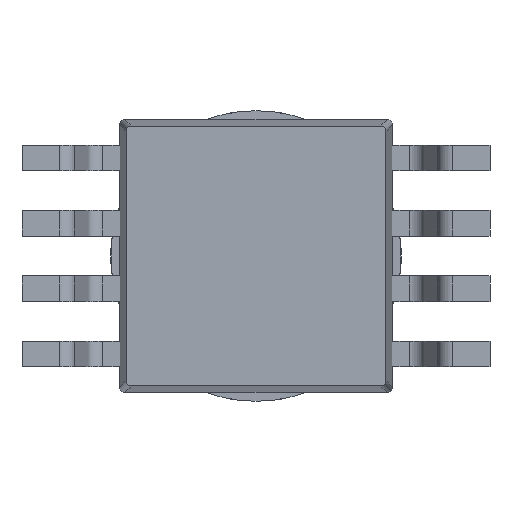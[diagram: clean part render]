
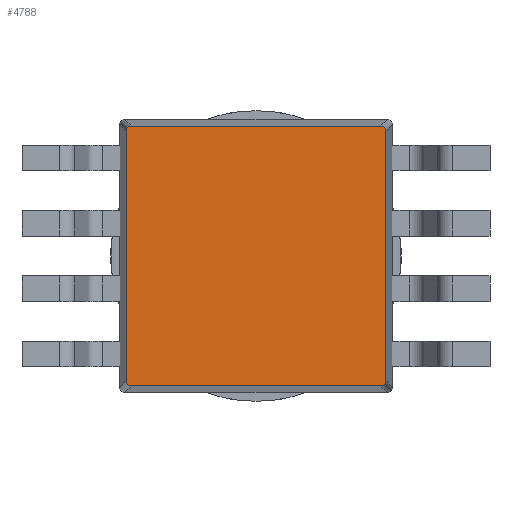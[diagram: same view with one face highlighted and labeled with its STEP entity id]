
A CAD part, front view. The second image highlights one B-rep face of the part: STEP entity #4788.
In plain terms, the highlighted planar face has unit normal (0, -1, 0).
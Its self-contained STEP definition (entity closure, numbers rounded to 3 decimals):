
#265 = LINE ( 'NONE', #266, #4687 ) ;
#266 = CARTESIAN_POINT ( 'NONE',  ( -5.055, -3.5, 5.3 ) ) ;
#267 = DIRECTION ( 'NONE',  ( 0., 0., 1. ) ) ;
#488 = LINE ( 'NONE', #489, #4168 ) ;
#489 = CARTESIAN_POINT ( 'NONE',  ( 5.055, -3.5, 5.3 ) ) ;
#490 = DIRECTION ( 'NONE',  ( 0., 0., -1. ) ) ;
#1036 = VERTEX_POINT ( 'NONE', #1461 ) ;
#1057 = VERTEX_POINT ( 'NONE', #1482 ) ;
#1066 = VERTEX_POINT ( 'NONE', #1491 ) ;
#1069 = VERTEX_POINT ( 'NONE', #1494 ) ;
#1076 = VERTEX_POINT ( 'NONE', #1501 ) ;
#1077 = VERTEX_POINT ( 'NONE', #1502 ) ;
#1081 = VERTEX_POINT ( 'NONE', #1506 ) ;
#1097 = VERTEX_POINT ( 'NONE', #1513 ) ;
#1397 = EDGE_LOOP ( 'NONE', ( #4410, #4411, #4406, #4407, #4408, #4394, #4395, #4396 ) ) ;
#1461 = CARTESIAN_POINT ( 'NONE',  ( 5.055, -3.5, -4.856 ) ) ;
#1482 = CARTESIAN_POINT ( 'NONE',  ( -4.856, -3.5, -5.055 ) ) ;
#1491 = CARTESIAN_POINT ( 'NONE',  ( 4.856, -3.5, 5.055 ) ) ;
#1494 = CARTESIAN_POINT ( 'NONE',  ( -5.055, -3.5, 4.856 ) ) ;
#1501 = CARTESIAN_POINT ( 'NONE',  ( -5.055, -3.5, -4.856 ) ) ;
#1502 = CARTESIAN_POINT ( 'NONE',  ( 4.856, -3.5, -5.055 ) ) ;
#1506 = CARTESIAN_POINT ( 'NONE',  ( -4.856, -3.5, 5.055 ) ) ;
#1513 = CARTESIAN_POINT ( 'NONE',  ( 5.055, -3.5, 4.856 ) ) ;
#1676 =( BOUNDED_CURVE ( )  B_SPLINE_CURVE ( 3, ( #5443, #5464, #5465, #5466 ),
 .UNSPECIFIED., .F., .F. ) 
 B_SPLINE_CURVE_WITH_KNOTS ( ( 4, 4 ),
 ( 5.5, 7.066 ),
 .UNSPECIFIED. ) 
 CURVE ( )  GEOMETRIC_REPRESENTATION_ITEM ( )  RATIONAL_B_SPLINE_CURVE ( ( 1., 0.806, 0.806, 1. ) ) 
 REPRESENTATION_ITEM ( '' )  );
#1679 =( BOUNDED_CURVE ( )  B_SPLINE_CURVE ( 3, ( #1825, #1843, #1844, #1845 ),
 .UNSPECIFIED., .F., .T. ) 
 B_SPLINE_CURVE_WITH_KNOTS ( ( 4, 4 ),
 ( 5.5, 7.066 ),
 .UNSPECIFIED. ) 
 CURVE ( )  GEOMETRIC_REPRESENTATION_ITEM ( )  RATIONAL_B_SPLINE_CURVE ( ( 1., 0.806, 0.806, 1. ) ) 
 REPRESENTATION_ITEM ( '' )  );
#1681 =( BOUNDED_CURVE ( )  B_SPLINE_CURVE ( 3, ( #1905, #1912, #1913, #1914 ),
 .UNSPECIFIED., .F., .T. ) 
 B_SPLINE_CURVE_WITH_KNOTS ( ( 4, 4 ),
 ( 5.5, 7.066 ),
 .UNSPECIFIED. ) 
 CURVE ( )  GEOMETRIC_REPRESENTATION_ITEM ( )  RATIONAL_B_SPLINE_CURVE ( ( 1., 0.806, 0.806, 1. ) ) 
 REPRESENTATION_ITEM ( '' )  );
#1682 =( BOUNDED_CURVE ( )  B_SPLINE_CURVE ( 3, ( #1915, #1937, #1938, #1939 ),
 .UNSPECIFIED., .F., .T. ) 
 B_SPLINE_CURVE_WITH_KNOTS ( ( 4, 4 ),
 ( 5.5, 7.066 ),
 .UNSPECIFIED. ) 
 CURVE ( )  GEOMETRIC_REPRESENTATION_ITEM ( )  RATIONAL_B_SPLINE_CURVE ( ( 1., 0.806, 0.806, 1. ) ) 
 REPRESENTATION_ITEM ( '' )  );
#1825 = CARTESIAN_POINT ( 'NONE',  ( -4.856, -3.5, 5.055 ) ) ;
#1843 = CARTESIAN_POINT ( 'NONE',  ( -4.973, -3.5, 5.055 ) ) ;
#1844 = CARTESIAN_POINT ( 'NONE',  ( -5.055, -3.5, 4.973 ) ) ;
#1845 = CARTESIAN_POINT ( 'NONE',  ( -5.055, -3.5, 4.856 ) ) ;
#1905 = CARTESIAN_POINT ( 'NONE',  ( 5.055, -3.5, 4.856 ) ) ;
#1912 = CARTESIAN_POINT ( 'NONE',  ( 5.055, -3.5, 4.973 ) ) ;
#1913 = CARTESIAN_POINT ( 'NONE',  ( 4.973, -3.5, 5.055 ) ) ;
#1914 = CARTESIAN_POINT ( 'NONE',  ( 4.856, -3.5, 5.055 ) ) ;
#1915 = CARTESIAN_POINT ( 'NONE',  ( -5.055, -3.5, -4.856 ) ) ;
#1937 = CARTESIAN_POINT ( 'NONE',  ( -5.055, -3.5, -4.973 ) ) ;
#1938 = CARTESIAN_POINT ( 'NONE',  ( -4.973, -3.5, -5.055 ) ) ;
#1939 = CARTESIAN_POINT ( 'NONE',  ( -4.856, -3.5, -5.055 ) ) ;
#2215 = CARTESIAN_POINT ( 'NONE',  ( 5.3, -3.5, -5.3 ) ) ;
#2218 = FACE_OUTER_BOUND ( 'NONE', #1397, .T. ) ;
#2219 = PLANE ( 'NONE',  #3570 ) ;
#2221 = DIRECTION ( 'NONE',  ( 0., -1., 0. ) ) ;
#2222 = DIRECTION ( 'NONE',  ( 0., 0., -1. ) ) ;
#3346 = VECTOR ( 'NONE', #5500, 1000. ) ;
#3570 = AXIS2_PLACEMENT_3D ( 'NONE', #2215, #2221, #2222 ) ;
#3716 = EDGE_CURVE ( 'NONE', #1076, #1069, #265, .T. ) ;
#3823 = EDGE_CURVE ( 'NONE', #1097, #1036, #488, .T. ) ;
#3850 = EDGE_CURVE ( 'NONE', #1077, #1057, #5317, .T. ) ;
#3888 = EDGE_CURVE ( 'NONE', #1077, #1036, #1676, .T. ) ;
#3900 = EDGE_CURVE ( 'NONE', #1081, #1066, #5498, .T. ) ;
#3959 = EDGE_CURVE ( 'NONE', #1081, #1069, #1679, .T. ) ;
#3981 = EDGE_CURVE ( 'NONE', #1097, #1066, #1681, .T. ) ;
#3989 = EDGE_CURVE ( 'NONE', #1076, #1057, #1682, .T. ) ;
#4088 = VECTOR ( 'NONE', #5328, 1000. ) ;
#4168 = VECTOR ( 'NONE', #490, 1000. ) ;
#4394 = ORIENTED_EDGE ( 'NONE', *, *, #3888, .T. ) ;
#4395 = ORIENTED_EDGE ( 'NONE', *, *, #3823, .F. ) ;
#4396 = ORIENTED_EDGE ( 'NONE', *, *, #3981, .T. ) ;
#4406 = ORIENTED_EDGE ( 'NONE', *, *, #3716, .F. ) ;
#4407 = ORIENTED_EDGE ( 'NONE', *, *, #3989, .T. ) ;
#4408 = ORIENTED_EDGE ( 'NONE', *, *, #3850, .F. ) ;
#4410 = ORIENTED_EDGE ( 'NONE', *, *, #3900, .F. ) ;
#4411 = ORIENTED_EDGE ( 'NONE', *, *, #3959, .T. ) ;
#4687 = VECTOR ( 'NONE', #267, 1000. ) ;
#4788 = ADVANCED_FACE ( 'NONE', ( #2218 ), #2219, .T. ) ;
#5317 = LINE ( 'NONE', #5318, #4088 ) ;
#5318 = CARTESIAN_POINT ( 'NONE',  ( -5.3, -3.5, -5.055 ) ) ;
#5328 = DIRECTION ( 'NONE',  ( -1., 0., 0. ) ) ;
#5443 = CARTESIAN_POINT ( 'NONE',  ( 4.856, -3.5, -5.055 ) ) ;
#5464 = CARTESIAN_POINT ( 'NONE',  ( 4.973, -3.5, -5.055 ) ) ;
#5465 = CARTESIAN_POINT ( 'NONE',  ( 5.055, -3.5, -4.973 ) ) ;
#5466 = CARTESIAN_POINT ( 'NONE',  ( 5.055, -3.5, -4.856 ) ) ;
#5498 = LINE ( 'NONE', #5499, #3346 ) ;
#5499 = CARTESIAN_POINT ( 'NONE',  ( -5.3, -3.5, 5.055 ) ) ;
#5500 = DIRECTION ( 'NONE',  ( 1., 0., 0. ) ) ;
